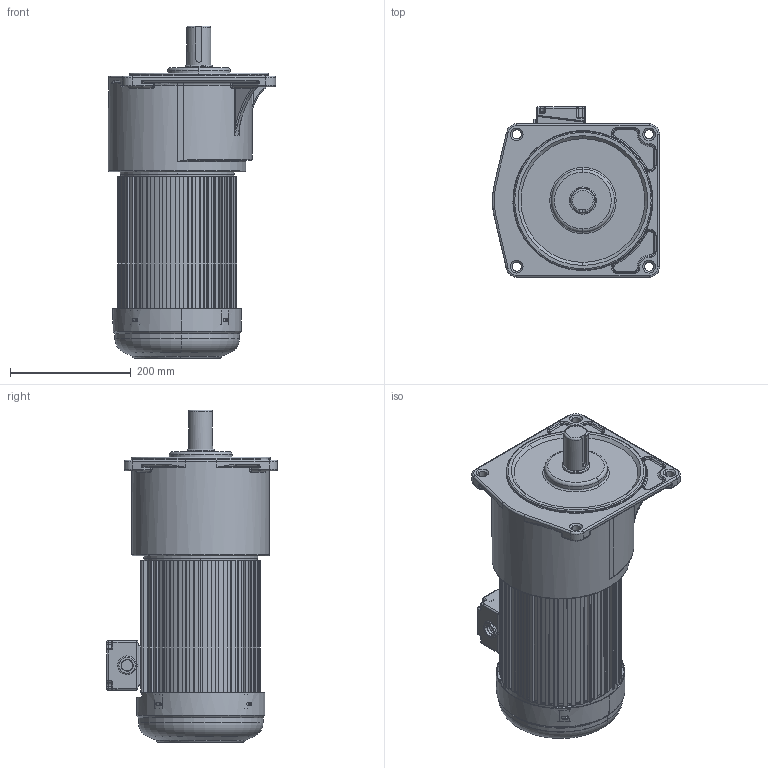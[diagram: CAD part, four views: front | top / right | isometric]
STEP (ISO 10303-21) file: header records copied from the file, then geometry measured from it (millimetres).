
FILE_DESCRIPTION(('HOOPS Exchange Step'),'2;1');
FILE_NAME('D:/ModelConvertServices/Model.003/TZT.New3D003/output/b394cd15-a2a9-4486-8b05-6b74966a6e3b/ZVN3700-S(Z)-3K-12.5K(15K-100K)(50轴）.step','2026-07-28T23:00:25+08:00',('SYSTEM'),('Unknown organisation'),'HOOPS Exchange 2024.3','HOOPS Exchange','Unknown authorisation');
FILE_SCHEMA( ('AP203_CONFIGURATION_CONTROLLED_3D_DESIGN_OF_MECHANICAL_PARTS_AND_ASSEMBLIES_MIM_LF') );
Length unit declared in the file: millimetre
Products named in the file (1): AdmiE513rs8m
Bounding box: 277.1 x 283.1 x 550 mm (x, y, z)
Volume: 15035257.5 mm3; surface area: 797020 mm2
Topology: 1 solids, 2 shells, 1853 faces, 5150 edges, 3296 vertices
Faces by surface type: plane 915, cylinder 644, torus 129, bspline 108, cone 38, sphere 19
Full cylindrical faces by diameter (mm): 40 x1, 45 x1, 180.5 x1, 228 x1
Entity records: 66845 total; most frequent: CARTESIAN_POINT 19021, ORIENTED_EDGE 10230, DIRECTION 9645, EDGE_CURVE 5115, VERTEX_POINT 3296, VECTOR 3245, LINE 3245, AXIS2_PLACEMENT_3D 3200
